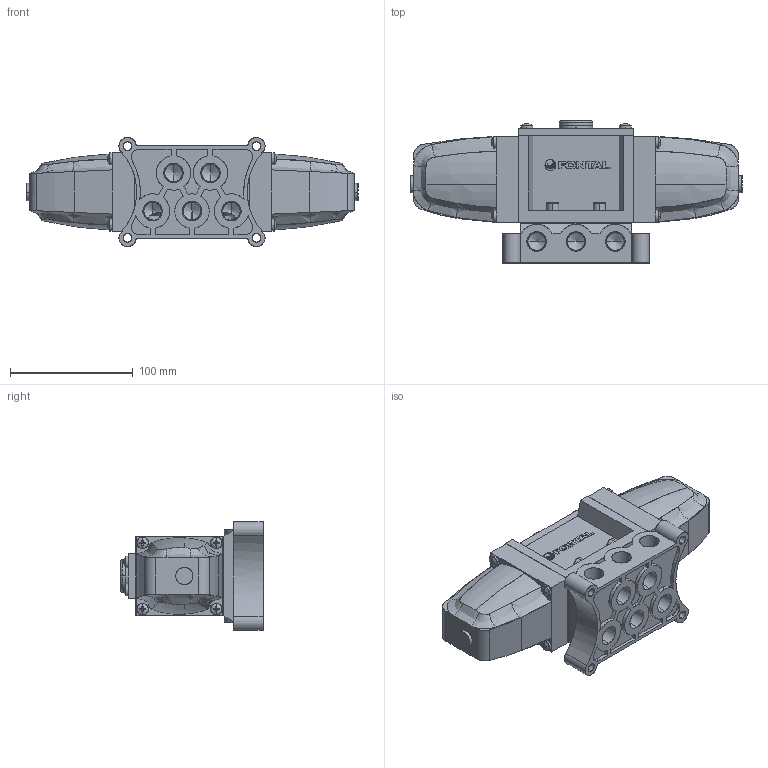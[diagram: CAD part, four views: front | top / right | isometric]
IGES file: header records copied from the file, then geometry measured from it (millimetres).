
Start section: SolidWorks IGES file using analytic representation for surfaces
Global section: file name: D:\Custom\3D繪製\A\A10\AD2410-03-##.IGS,1; native system: 5HSolidWorks 2014; preprocessor: SolidWorks 2014; author: Chieh_Lu; date: 151223.134855; units: millimetre
Bounding box: 270 x 115.6 x 88.6 mm (x, y, z)
Surface area: 162652.5 mm2 (no closed solid volume)
Topology: 0 solids, 0 shells, 930 faces, 10984 edges, 10936 vertices
Faces by surface type: bspline 563, revolution 367
